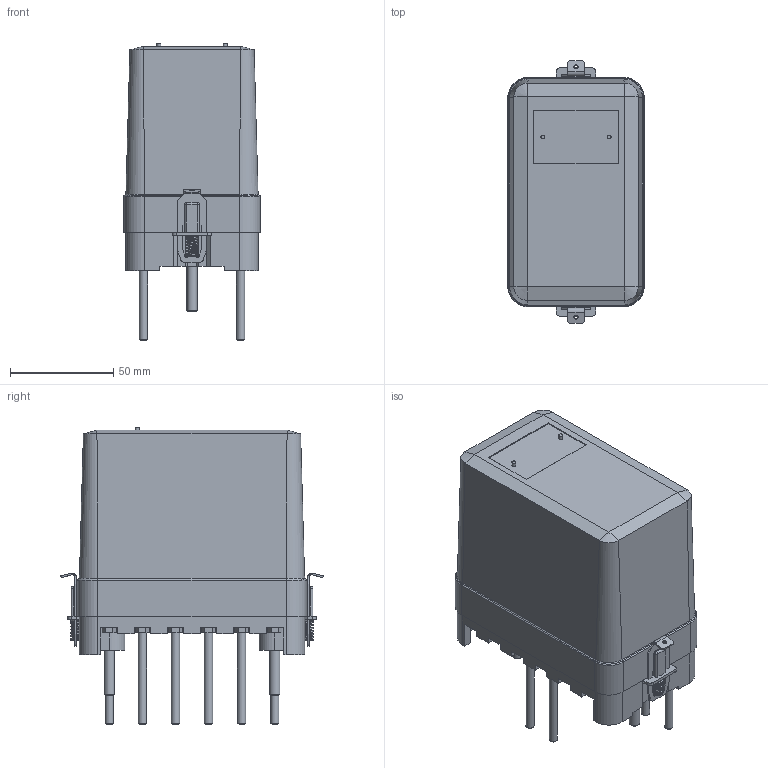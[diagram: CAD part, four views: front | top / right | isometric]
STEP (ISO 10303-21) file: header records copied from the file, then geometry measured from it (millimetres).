
FILE_DESCRIPTION(('STEP AP214'), '1');
FILE_NAME('ÐÑÂ-01-4 ç.ï.øï', '', ('UNSPECIFIED'), ('UNSPECIFIED'), 'ASCON STEP Converter 1.3', 'ASCON Math Kernel', '');
FILE_SCHEMA(('AUTOMOTIVE_DESIGN { 1 0 10303 214 3 1 1}'));
Length unit declared in the file: millimetre
Bounding box: 66 x 127 x 144 mm (x, y, z)
Volume: 138942.7 mm3; surface area: 103620.7 mm2
Topology: 1 solids, 1 shells, 906 faces, 2423 edges, 1541 vertices
Faces by surface type: plane 601, cylinder 205, torus 36, bspline 30, cone 28, sphere 6
Full cylindrical faces by diameter (mm): 1.9 x2, 2 x2, 2.5 x2, 2.7 x2, 3.242 x12, 3.5 x2, 4 x20, 5 x4, 5.5 x2, 9.5 x2
Entity records: 47014 total; most frequent: CARTESIAN_POINT 17518, ORIENTED_EDGE 4590, DIRECTION 4449, EDGE_CURVE 2295, LINE 1619, VECTOR 1619, VERTEX_POINT 1535, AXIS2_PLACEMENT_3D 1415
